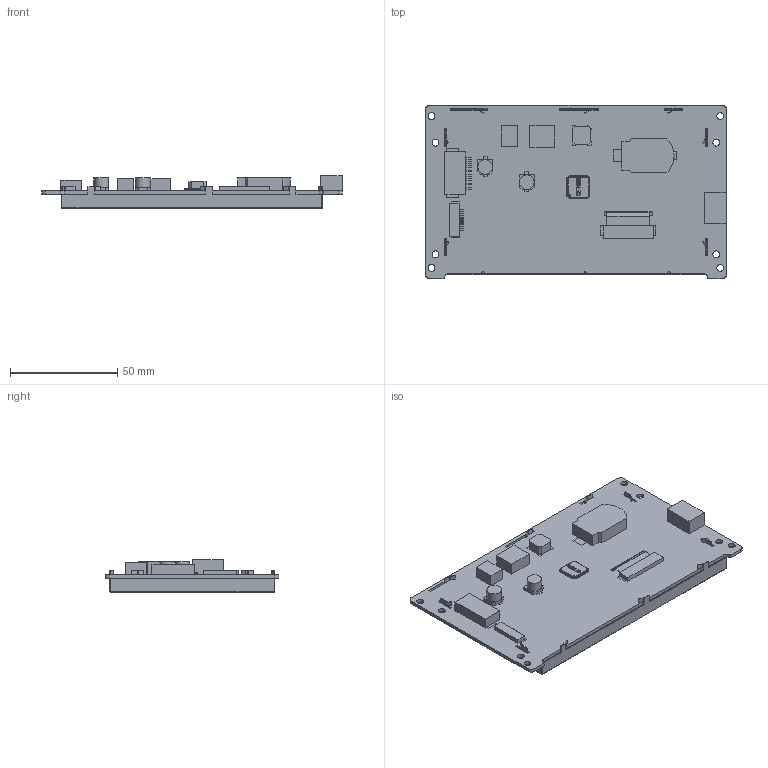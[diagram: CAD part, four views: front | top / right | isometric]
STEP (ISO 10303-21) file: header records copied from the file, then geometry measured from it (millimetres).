
FILE_DESCRIPTION(/* description */ (''),/* implementation_level */ '2;1');
FILE_NAME(/* name */ '',/* time_stamp */ '2023-07-27T11:45:42+08:00',/* author */ (''),/* organization */ (''),/* preprocessor_version */ 'ST-DEVELOPER v11',/* originating_system */ 'SIEMENS PLM Software NX 7.5',/* authorisation */ '');
FILE_SCHEMA (('AP203_CONFIGURATION_CONTROLLED_3D_DESIGN_OF_MECHANICAL_PARTS_AND_ASSEMBLIES_MIM_LF'));
Length unit declared in the file: millimetre
Products named in the file (1): 3D-SDWb050U74AN_stp
Bounding box: 140 x 80.9 x 15.1 mm (x, y, z)
Volume: 41306.6 mm3; surface area: 55189.3 mm2
Topology: 19 solids, 19 shells, 1493 faces, 4259 edges, 2817 vertices
Faces by surface type: plane 1299, cylinder 187, bspline 7
Full cylindrical faces by diameter (mm): 3.2 x8, 6.776 x2
Entity records: 50001 total; most frequent: CARTESIAN_POINT 8979, ORIENTED_EDGE 8494, DIRECTION 7513, EDGE_CURVE 4247, LINE 3835, VECTOR 3835, VERTEX_POINT 2815, AXIS2_PLACEMENT_3D 1839
